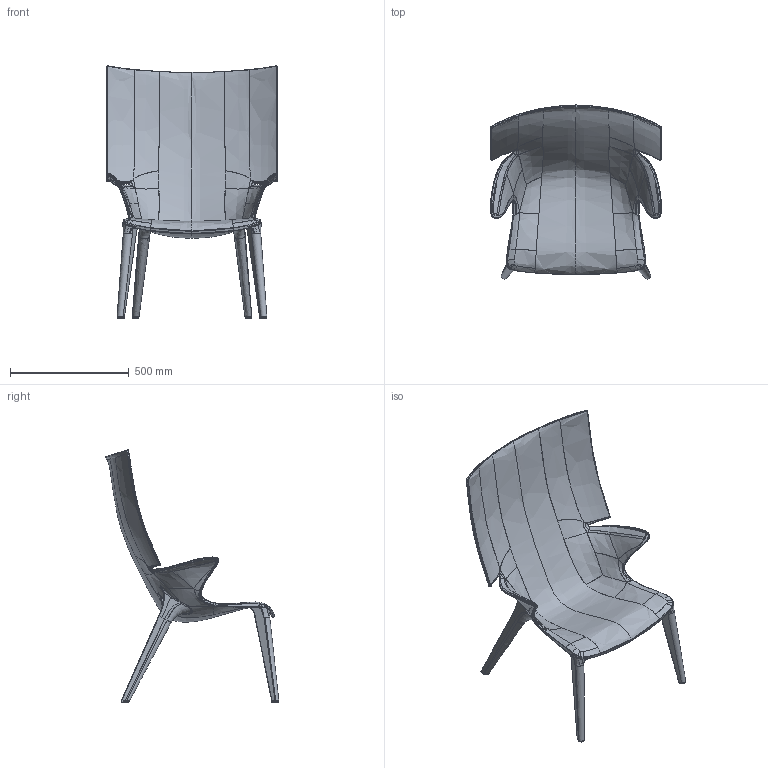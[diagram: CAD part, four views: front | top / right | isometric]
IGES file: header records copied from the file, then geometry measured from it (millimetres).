
Global section: file name: E:\Users\Stefano\3014\cliente\inviati\03__23-04-14\30140 3d pezzo--06-5.igs; native system: NX V8.5; preprocessor: SIEMENS PLM Software NX 8.5; date: 20140423.101927; units: millimetre
Bounding box: 721.14 x 731.38 x 1062.4 mm (x, y, z)
Surface area: 2023513.7 mm2 (no closed solid volume)
Topology: 0 solids, 0 shells, 780 faces, 7158 edges, 7138 vertices
Faces by surface type: bspline 646, offset 52, revolution 46, extrusion 36
